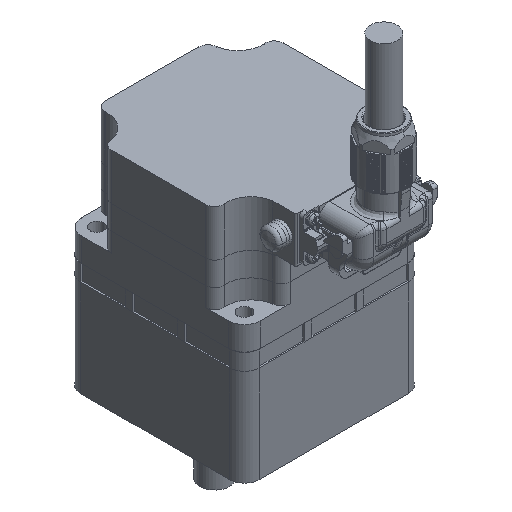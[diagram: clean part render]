
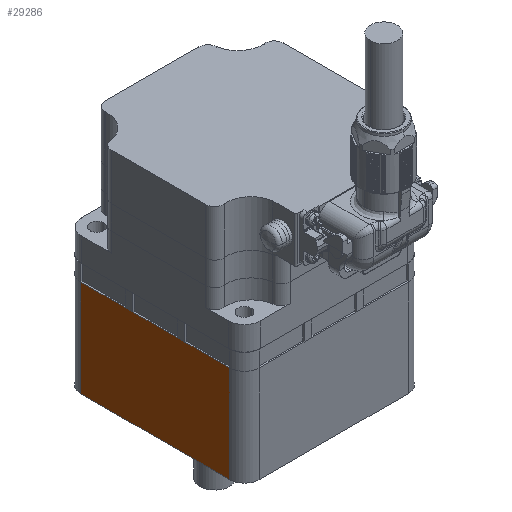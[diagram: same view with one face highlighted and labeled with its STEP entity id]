
A CAD part, isometric view. The second image highlights one B-rep face of the part: STEP entity #29286.
In plain terms, the highlighted planar face has unit normal (-1, 0, 0).
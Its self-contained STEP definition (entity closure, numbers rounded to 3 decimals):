
#461 = VECTOR ( 'NONE', #14967, 1000. ) ;
#711 = VERTEX_POINT ( 'NONE', #36467 ) ;
#1506 = LINE ( 'NONE', #11707, #461 ) ;
#3106 = EDGE_CURVE ( 'NONE', #9970, #7905, #27640, .T. ) ;
#3252 = EDGE_LOOP ( 'NONE', ( #11060, #19460, #6714, #14880, #17601, #10262, #26808, #15769 ) ) ;
#3416 = CARTESIAN_POINT ( 'NONE',  ( -30., 30., -38. ) ) ;
#3466 = CARTESIAN_POINT ( 'NONE',  ( -30., 30., -38. ) ) ;
#6714 = ORIENTED_EDGE ( 'NONE', *, *, #13249, .F. ) ;
#7286 = EDGE_CURVE ( 'NONE', #11958, #711, #1506, .T. ) ;
#7434 = VECTOR ( 'NONE', #27074, 1000. ) ;
#7655 = CARTESIAN_POINT ( 'NONE',  ( -30., -10., -5.5 ) ) ;
#7878 = DIRECTION ( 'NONE',  ( 0., -1., 0. ) ) ;
#7905 = VERTEX_POINT ( 'NONE', #21964 ) ;
#8335 = CARTESIAN_POINT ( 'NONE',  ( -30., -25., -5.5 ) ) ;
#9899 = PLANE ( 'NONE',  #17767 ) ;
#9970 = VERTEX_POINT ( 'NONE', #28463 ) ;
#10262 = ORIENTED_EDGE ( 'NONE', *, *, #33900, .F. ) ;
#11060 = ORIENTED_EDGE ( 'NONE', *, *, #13999, .T. ) ;
#11707 = CARTESIAN_POINT ( 'NONE',  ( -30., 30., -5.5 ) ) ;
#11958 = VERTEX_POINT ( 'NONE', #39960 ) ;
#12456 = EDGE_CURVE ( 'NONE', #9970, #26553, #33912, .T. ) ;
#12919 = VECTOR ( 'NONE', #19582, 1000. ) ;
#13146 = DIRECTION ( 'NONE',  ( 0., -1., 0. ) ) ;
#13249 = EDGE_CURVE ( 'NONE', #21065, #33396, #41976, .T. ) ;
#13999 = EDGE_CURVE ( 'NONE', #26553, #31187, #20547, .T. ) ;
#14045 = CARTESIAN_POINT ( 'NONE',  ( -30., 25., -38. ) ) ;
#14880 = ORIENTED_EDGE ( 'NONE', *, *, #30354, .F. ) ;
#14967 = DIRECTION ( 'NONE',  ( 0., -1., 0. ) ) ;
#15769 = ORIENTED_EDGE ( 'NONE', *, *, #12456, .T. ) ;
#16227 = LINE ( 'NONE', #33817, #32522 ) ;
#17601 = ORIENTED_EDGE ( 'NONE', *, *, #7286, .F. ) ;
#17767 = AXIS2_PLACEMENT_3D ( 'NONE', #3416, #32636, #13146 ) ;
#19460 = ORIENTED_EDGE ( 'NONE', *, *, #39560, .T. ) ;
#19582 = DIRECTION ( 'NONE',  ( 0., -1., 0. ) ) ;
#20181 = LINE ( 'NONE', #31238, #36490 ) ;
#20547 = LINE ( 'NONE', #3466, #12919 ) ;
#21065 = VERTEX_POINT ( 'NONE', #22296 ) ;
#21964 = CARTESIAN_POINT ( 'NONE',  ( -30., 10., -5.5 ) ) ;
#22296 = CARTESIAN_POINT ( 'NONE',  ( -30., -10., -5.5 ) ) ;
#22789 = DIRECTION ( 'NONE',  ( 0., 0., -1. ) ) ;
#26553 = VERTEX_POINT ( 'NONE', #14045 ) ;
#26622 = VECTOR ( 'NONE', #41507, 1000. ) ;
#26808 = ORIENTED_EDGE ( 'NONE', *, *, #3106, .F. ) ;
#27074 = DIRECTION ( 'NONE',  ( 0., -1., 0. ) ) ;
#27640 = LINE ( 'NONE', #38245, #26622 ) ;
#28463 = CARTESIAN_POINT ( 'NONE',  ( -30., 25., -5.5 ) ) ;
#29286 = ADVANCED_FACE ( 'NONE', ( #29854 ), #9899, .T. ) ;
#29366 = CARTESIAN_POINT ( 'NONE',  ( -30., 25., -38. ) ) ;
#29854 = FACE_OUTER_BOUND ( 'NONE', #3252, .T. ) ;
#30354 = EDGE_CURVE ( 'NONE', #711, #21065, #20181, .T. ) ;
#31187 = VERTEX_POINT ( 'NONE', #31688 ) ;
#31238 = CARTESIAN_POINT ( 'NONE',  ( -30., 30., -5.5 ) ) ;
#31688 = CARTESIAN_POINT ( 'NONE',  ( -30., -25., -38. ) ) ;
#32522 = VECTOR ( 'NONE', #37108, 1000. ) ;
#32636 = DIRECTION ( 'NONE',  ( -1., 0., 0. ) ) ;
#32877 = VECTOR ( 'NONE', #22789, 1000. ) ;
#33396 = VERTEX_POINT ( 'NONE', #8335 ) ;
#33817 = CARTESIAN_POINT ( 'NONE',  ( -30., -25., -38. ) ) ;
#33900 = EDGE_CURVE ( 'NONE', #7905, #11958, #41345, .T. ) ;
#33912 = LINE ( 'NONE', #29366, #32877 ) ;
#34499 = DIRECTION ( 'NONE',  ( 0., -1., 0. ) ) ;
#34754 = VECTOR ( 'NONE', #7878, 1000. ) ;
#36467 = CARTESIAN_POINT ( 'NONE',  ( -30., -7.5, -5.5 ) ) ;
#36490 = VECTOR ( 'NONE', #34499, 1000. ) ;
#37108 = DIRECTION ( 'NONE',  ( 0., 0., 1. ) ) ;
#37150 = CARTESIAN_POINT ( 'NONE',  ( -30., 30., -5.5 ) ) ;
#38245 = CARTESIAN_POINT ( 'NONE',  ( -30., 10., -5.5 ) ) ;
#39560 = EDGE_CURVE ( 'NONE', #31187, #33396, #16227, .T. ) ;
#39960 = CARTESIAN_POINT ( 'NONE',  ( -30., 7.5, -5.5 ) ) ;
#41345 = LINE ( 'NONE', #37150, #34754 ) ;
#41507 = DIRECTION ( 'NONE',  ( 0., -1., 0. ) ) ;
#41976 = LINE ( 'NONE', #7655, #7434 ) ;
